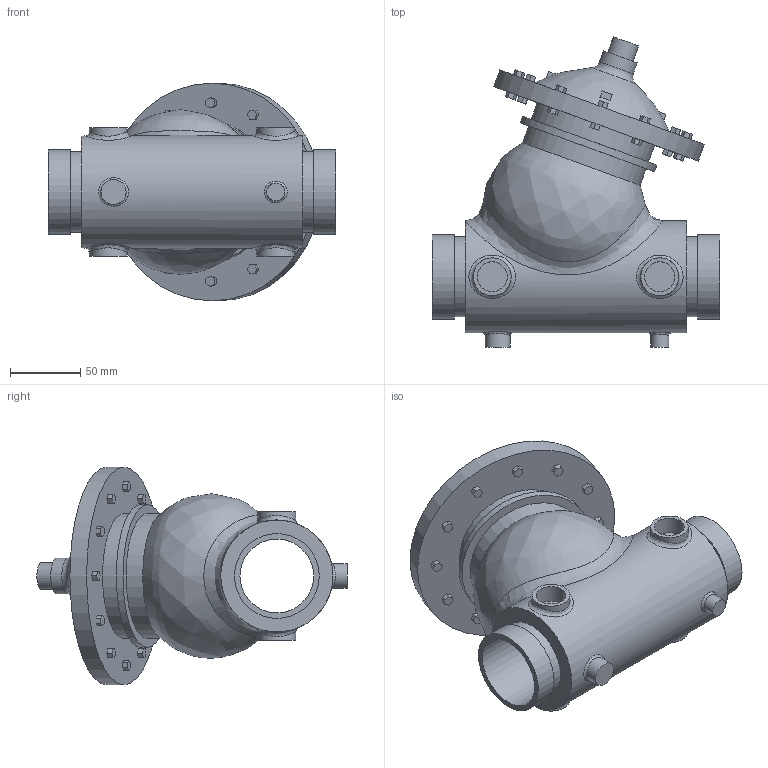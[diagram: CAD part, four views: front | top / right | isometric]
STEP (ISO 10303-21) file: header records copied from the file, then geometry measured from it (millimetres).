
FILE_DESCRIPTION(/* description */ ('VIC FP VALVE PRESSURE RELIEF SERIES 867-7UF (OGS)','CAx-IF Rec.Pracs.---Representation and Presentation of Product Manufacturing Information (PMI)---4.0---2014-10-13'),/* implementation_level */ '2;1');
FILE_NAME(/* name */ 'C:\Series 867-7UF\New folder (2)\step\Victaulic_FP-Bermad_Valve Pressure Relief_Series 867-7UF (OGS)\Victaulic_FP-Bermad_Valve Pressure Relief_Series 867-7UF (OGS)_2 (50).stp',/* time_stamp */ '2021-09-02T12:11:03+06:00',/* author */ ('kkamble'),/* organization */ ('Victaulic'),/* preprocessor_version */ 'ST-DEVELOPER v17.2',/* originating_system */ 'Autodesk Inventor 2019',/* authorisation */ '');
FILE_SCHEMA (('INTEGRATED_CNC_SCHEMA','AP242_MANAGED_MODEL_BASED_3D_ENGINEERING_MIM_LF { 1 0 10303 442 1 1 4 }'));
Length unit declared in the file: inch
Products named in the file (1): 867-7UF-02.0
Bounding box: 204.98 x 220.87 x 154.94 mm (x, y, z)
Volume: 1542760.6 mm3; surface area: 162730.7 mm2
Topology: 1 solids, 1 shells, 238 faces, 600 edges, 408 vertices
Faces by surface type: plane 206, cylinder 22, bspline 9, torus 1
Full cylindrical faces by diameter (mm): 12.7 x1, 17.78 x1, 19.05 x1, 21.336 x4, 25.4 x1, 26.873 x4, 52.502 x1, 57.15 x2, 60.325 x2, 79.756 x1, 88.9 x2, 101.6 x1, 154.94 x1
Entity records: 8580 total; most frequent: CARTESIAN_POINT 2454, ORIENTED_EDGE 1208, DIRECTION 1128, EDGE_CURVE 604, LINE 480, VECTOR 480, VERTEX_POINT 412, AXIS2_PLACEMENT_3D 324
